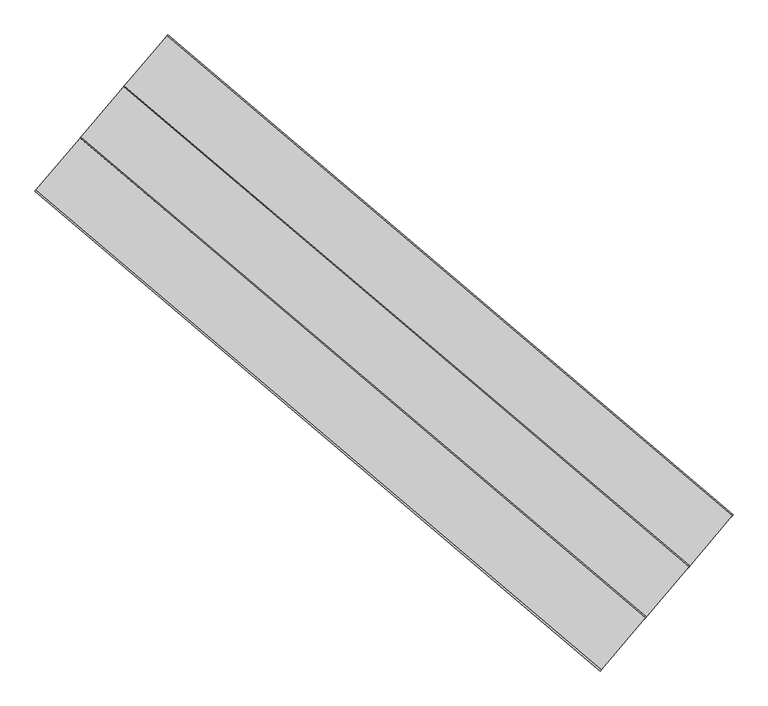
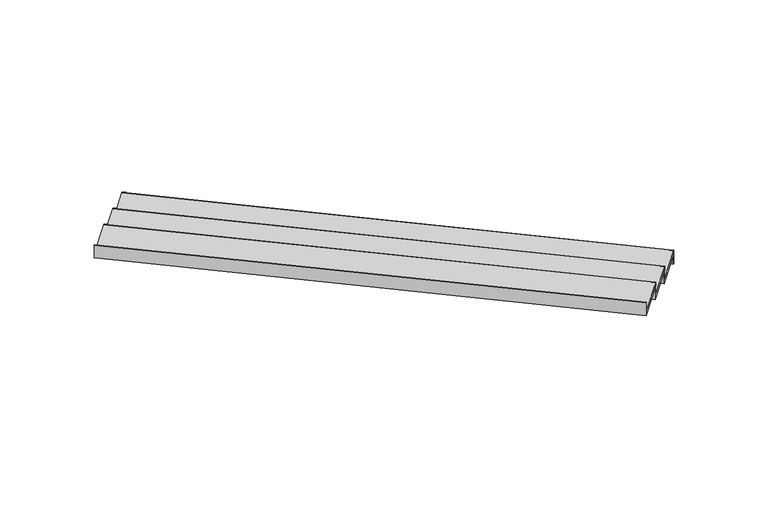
"""IFC4 building model written with IfcOpenShell, lengths in millimetres: stair flight geometry, Wood Steps with 50 mm Tread 20 mm Nosing 13 mm Riser."""

from ifc_helpers import new_model, si_unit, point, frame, frame_2d, origin, place, context, project, spatial, polyline, circle_curve, trimmed, segment, composite_curve, outline, extrude, source, transform, mapped, element, save


def stair_flight_bb4817cc(model_context):
    return source(origin(), model_context, "Body", "SweptSolid", [
        extrude(outline(composite_curve([segment(polyline([(0.0, -598.410772), (0.0, 0.0), (50.0, 0.0), (50.0, -598.410772), (20.0, -598.410772)]), True, "CONTINUOUS"), segment(trimmed(circle_curve(frame_2d((10.0, -598.410772)), 10.0), [point((20.0, -598.410772))], [point((0.0, -598.410772))], False, "CARTESIAN"), True, "CONTINUOUS")], self_intersect=False)), frame((808413.9693624, 57635.4238121, 1179.2941176), z_axis=(-0.7621570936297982, 0.6473921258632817, 0.0), x_axis=(0.0, 0.0, -1.0)), (0.0, 0.0, 1.0), 6496.9085624),
        extrude(outline(polyline([(803835.1445138, 62280.405738), (803843.2369154, 62289.9327017), (808794.9018629, 58083.885256), (808786.8094614, 58074.3582923), (803835.1445138, 62280.405738)])), frame((0.0, 0.0, 1000.0), z_axis=(0.0, 0.0, 1.0), x_axis=(1.0, 0.0, 0.0)), (0.0, 0.0, 1.0), 129.2941176),
        extrude(outline(polyline([(803454.2120133, 61831.9442942), (803462.3044149, 61841.4712579), (808413.9693624, 57635.4238121), (808405.8769608, 57625.8968484), (803454.2120133, 61831.9442942)])), frame((0.0, 0.0, 1129.2941176), z_axis=(0.0, 0.0, 1.0), x_axis=(1.0, 0.0, 0.0)), (0.0, 0.0, 1.0), 179.2941176),
        extrude(outline(composite_curve([segment(polyline([(0.0, -598.4107719), (0.0, 0.0), (50.0, 0.0), (50.0, -598.4107719), (20.0, -598.4107719)]), True, "CONTINUOUS"), segment(trimmed(circle_curve(frame_2d((10.0, -598.4107719)), 10.0), [point((20.0, -598.4107719))], [point((0.0, -598.4107719))], False, "CARTESIAN"), True, "CONTINUOUS")], self_intersect=False)), frame((808033.0368618, 57186.9623683, 1358.5882353), z_axis=(-0.7621570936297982, 0.6473921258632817, 0.0), x_axis=(0.0, 0.0, -1.0)), (0.0, 0.0, 1.0), 6496.9085624),
        extrude(outline(polyline([(803073.2795127, 61383.4828504), (803081.3719143, 61393.009814), (808033.0368618, 57186.9623683), (808024.9444602, 57177.4354046), (803073.2795127, 61383.4828504)])), frame((0.0, 0.0, 1308.5882353), z_axis=(0.0, 0.0, 1.0), x_axis=(1.0, 0.0, 0.0)), (0.0, 0.0, 1.0), 179.2941176),
        extrude(outline(polyline([(802692.3470122, 60935.0214065), (802700.4394137, 60944.5483702), (807652.1043613, 56738.5009244), (807644.0119597, 56728.9739608), (802692.3470122, 60935.0214065)])), frame((0.0, 0.0, 1487.8823529), z_axis=(0.0, 0.0, 1.0), x_axis=(1.0, 0.0, 0.0)), (0.0, 0.0, 1.0), 179.2941176),
        extrude(outline(composite_curve([segment(polyline([(0.0, -598.410772), (0.0, 0.0), (50.0, 0.0), (50.0, -598.410772), (20.0, -598.410772)]), True, "CONTINUOUS"), segment(trimmed(circle_curve(frame_2d((10.0, -598.410772)), 10.0), [point((20.0, -598.410772))], [point((0.0, -598.410772))], False, "CARTESIAN"), True, "CONTINUOUS")], self_intersect=False)), frame((807652.1043613, 56738.5009244, 1537.8823529), z_axis=(-0.7621570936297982, 0.6473921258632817, 0.0), x_axis=(0.0, 0.0, -1.0)), (0.0, 0.0, 1.0), 6496.9085624),
    ])


if __name__ == "__main__":
    model = new_model("IFC4")
    model_context = context("Model", 3, world=origin())
    ifc_project = project(units=[si_unit("LENGTHUNIT", "METRE", prefix="MILLI")], contexts=[model_context])
    site = spatial("IfcSite", under=ifc_project)
    building = spatial("IfcBuilding", under=site)
    placement = place(None, origin())
    stair_flight_shape = stair_flight_bb4817cc(model_context)
    element("IfcStairFlight", 1, ObjectType="Wood Steps with 50 mm Tread 20 mm Nosing 13 mm Riser", at=placement, inside=building, context=model_context, shape_type="MappedRepresentation", body=[
        mapped(stair_flight_shape, transform((0.0, 0.0, 0.0), x_axis=(1.0, 0.0, 0.0), y_axis=(0.0, 1.0, 0.0), z_axis=(0.0, 0.0, 1.0))),
    ])
    save(model, "model.ifc")
